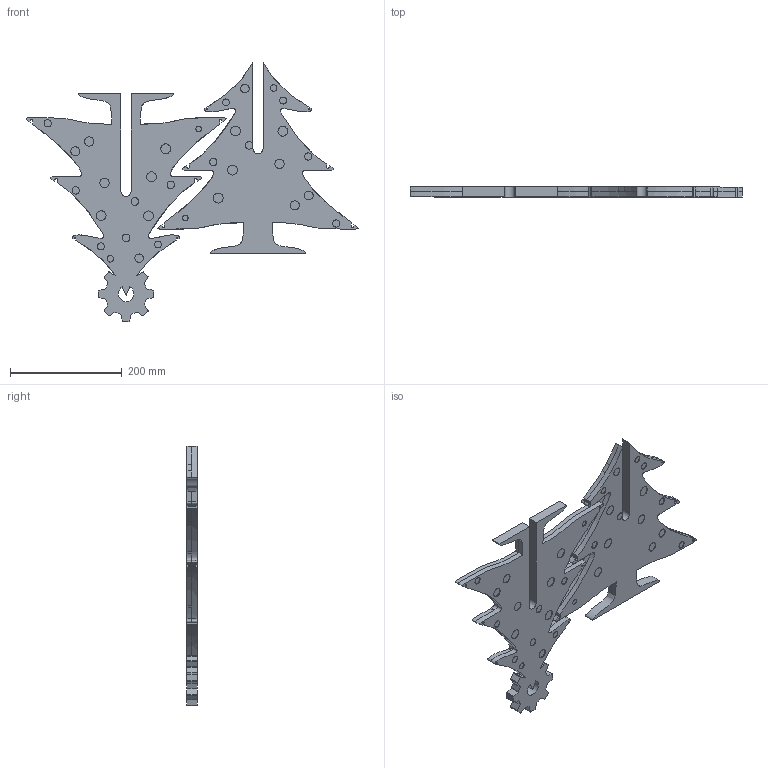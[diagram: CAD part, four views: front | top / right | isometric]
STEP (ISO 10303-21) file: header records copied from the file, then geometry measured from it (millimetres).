
FILE_DESCRIPTION(/* description */ (''),/* implementation_level */ '2;1');
FILE_NAME(/* name */ 'Christmas Tree Part 1 Copy.step',/* time_stamp */ '2025-12-12T09:22:05+11:00',/* author */ (''),/* organization */ (''),/* preprocessor_version */ 'ST-DEVELOPER v20.1',/* originating_system */ 'Autodesk Translation Framework v14.21.0.0',/* authorisation */ '');
FILE_SCHEMA (('AUTOMOTIVE_DESIGN { 1 0 10303 214 3 1 1 }'));
Length unit declared in the file: millimetre
Products named in the file (1): 2025-12-04-22-39-46-986
Bounding box: 593.73 x 18 x 463.82 mm (x, y, z)
Volume: 1868349.2 mm3; surface area: 294090.5 mm2
Topology: 2 solids, 2 shells, 307 faces, 730 edges, 493 vertices
Faces by surface type: plane 128, cylinder 111, bspline 68
Full cylindrical faces by diameter (mm): 10 x4, 11.788 x4, 12.005 x4, 12.55 x4, 12.95 x4, 13.086 x4, 13.285 x4, 13.598 x4, 14.046 x2, 15.224 x4, 15.747 x4, 16.486 x4, 16.625 x4, 17.516 x8, 17.615 x4, 17.689 x4
Entity records: 12244 total; most frequent: CARTESIAN_POINT 5310, ORIENTED_EDGE 1460, DIRECTION 1286, EDGE_CURVE 730, VERTEX_POINT 493, AXIS2_PLACEMENT_3D 462, EDGE_LOOP 375, LINE 362
